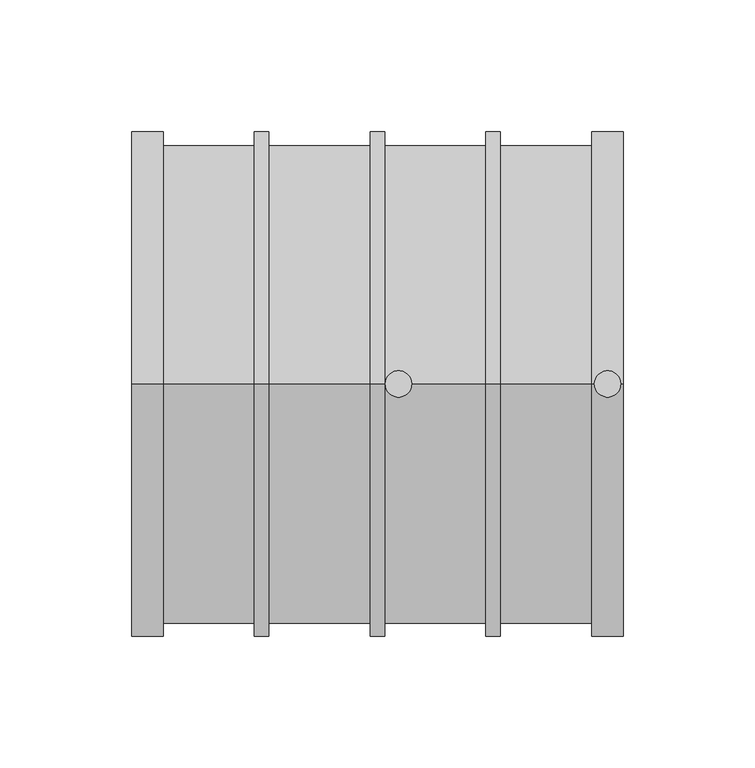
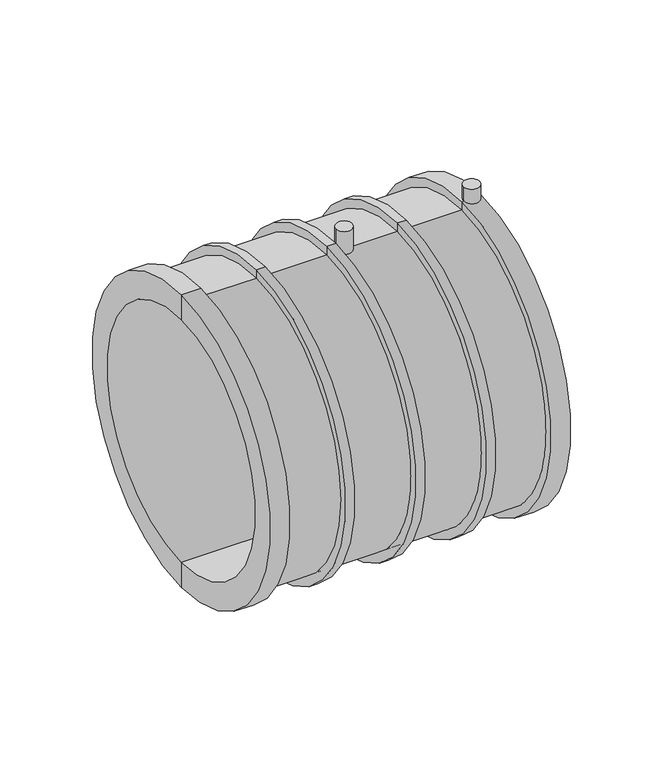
"""IFC4 building model written with IfcOpenShell, lengths in millimetres: pipe fitting geometry, Plumbing_Pipe-Fittings_Plasson_Wastewater-PE-to-PVC-Adaptor_4701V4 : Plumbing_Pipe-Fittings_Plasson_Wastewater-PE-to-PVC-Adaptor_4701V4."""

from ifc_helpers import new_model, si_unit, point, frame, frame_2d, origin, place, context, project, spatial, polyline, circle_curve, trimmed, segment, composite_curve, outline, extrude, source, transform, mapped, element, save
from ifc_brep_helpers import plane_surface, cylinder_surface, revolved_surface, advanced_brep


def pipe_fitting_9f1613c2(model_context):
    return source(origin(), model_context, "Body", "SolidModel", [
        advanced_brep(
        [(-16.5, 0.0, -80.0), (-16.5, 0.0, 80.0), (-93.5, 0.0, 80.0), (-93.5, 0.0, -80.0), (-16.5, 0.0, -77.0), (-16.5, 0.0, 77.0), (3.5, 0.0, -77.0), (3.5, 0.0, 77.0), (3.5, 0.0, -80.0), (3.5, 0.0, 80.0), (93.5, 0.0, -80.0), (93.5, 0.0, 80.0), (93.5, 0.0, -96.5), (93.5, 0.0, 96.5), (81.5, 0.0, -96.5), (81.5, 0.0, 96.5), (81.5, 0.0, -91.0), (81.5, 0.0, 91.0), (46.75, 0.0, -96.5), (46.75, 0.0, 96.5), (46.75, 0.0, 91.0), (46.75, 0.0, -91.0), (-81.5, 0.0, -91.0), (-81.5, 0.0, 91.0), (-46.75, 0.0, 91.0), (-46.75, 0.0, -91.0), (-81.5, 0.0, -96.5), (-81.5, 0.0, 96.5), (-93.5, 0.0, -96.5), (-93.5, 0.0, 96.5), (41.25, 0.0, -96.5), (41.25, 0.0, 96.5), (41.25, 0.0, -91.0), (41.25, 0.0, 91.0), (2.75, 0.0, -91.0), (2.75, 0.0, 91.0), (2.75, 0.0, -96.5), (2.75, 0.0, 96.5), (-2.75, 0.0, -96.5), (-2.75, 0.0, 96.5), (-2.75, 0.0, -91.0), (-2.75, 0.0, 91.0), (-41.25, 0.0, -91.0), (-41.25, 0.0, 91.0), (-41.25, 0.0, -96.5), (-41.25, 0.0, 96.5), (-46.75, 0.0, -96.5), (-46.75, 0.0, 96.5)],
        [
            (0, 1, circle_curve(frame((-16.5, 0.0, 0.0), z_axis=(1.0, 0.0, 0.0), x_axis=(0.0, 0.0, 1.0)), 80.0)),
            (1, 2),
            (2, 3, circle_curve(frame((-93.5, 0.0, 0.0), z_axis=(-1.0, 0.0, 0.0), x_axis=(0.0, 0.0, 1.0)), 80.0)),
            (3, 0),
            (1, 0, circle_curve(frame((-16.5, 0.0, 0.0), z_axis=(1.0, 0.0, 0.0), x_axis=(0.0, 0.0, 1.0)), 80.0)),
            (3, 2, circle_curve(frame((-93.5, 0.0, 0.0), z_axis=(-1.0, 0.0, 0.0), x_axis=(0.0, 0.0, 1.0)), 80.0)),
            (4, 5, circle_curve(frame((-16.5, 0.0, 0.0), z_axis=(1.0, 0.0, 0.0), x_axis=(0.0, 0.0, 1.0)), 77.0)),
            (5, 1),
            (0, 4),
            (5, 4, circle_curve(frame((-16.5, 0.0, 0.0), z_axis=(1.0, 0.0, 0.0), x_axis=(0.0, 0.0, 1.0)), 77.0)),
            (6, 7, circle_curve(frame((3.5, 0.0, 0.0), z_axis=(1.0, 0.0, 0.0), x_axis=(0.0, 0.0, 1.0)), 77.0)),
            (7, 5),
            (4, 6),
            (7, 6, circle_curve(frame((3.5, 0.0, 0.0), z_axis=(1.0, 0.0, 0.0), x_axis=(0.0, 0.0, 1.0)), 77.0)),
            (8, 9, circle_curve(frame((3.5, 0.0, 0.0), z_axis=(1.0, 0.0, 0.0), x_axis=(0.0, 0.0, 1.0)), 80.0)),
            (9, 7),
            (6, 8),
            (9, 8, circle_curve(frame((3.5, 0.0, 0.0), z_axis=(1.0, 0.0, 0.0), x_axis=(0.0, 0.0, 1.0)), 80.0)),
            (10, 11, circle_curve(frame((93.5, 0.0, 0.0), z_axis=(1.0, 0.0, 0.0), x_axis=(0.0, 0.0, 1.0)), 80.0)),
            (11, 9),
            (8, 10),
            (11, 10, circle_curve(frame((93.5, 0.0, 0.0), z_axis=(1.0, 0.0, 0.0), x_axis=(0.0, 0.0, 1.0)), 80.0)),
            (12, 13, circle_curve(frame((93.5, 0.0, 0.0), z_axis=(1.0, 0.0, 0.0), x_axis=(0.0, 0.0, 1.0)), 96.5)),
            (13, 11),
            (10, 12),
            (13, 12, circle_curve(frame((93.5, 0.0, 0.0), z_axis=(1.0, 0.0, 0.0), x_axis=(0.0, 0.0, 1.0)), 96.5)),
            (14, 15, circle_curve(frame((81.5, 0.0, 0.0), z_axis=(1.0, 0.0, 0.0), x_axis=(0.0, 0.0, 1.0)), 96.5)),
            (15, 13),
            (12, 14),
            (15, 14, circle_curve(frame((81.5, 0.0, 0.0), z_axis=(1.0, 0.0, 0.0), x_axis=(0.0, 0.0, 1.0)), 96.5)),
            (16, 17, circle_curve(frame((81.5, 0.0, 0.0), z_axis=(1.0, 0.0, 0.0), x_axis=(0.0, 0.0, 1.0)), 91.0)),
            (17, 15),
            (14, 16),
            (17, 16, circle_curve(frame((81.5, 0.0, 0.0), z_axis=(1.0, 0.0, 0.0), x_axis=(0.0, 0.0, 1.0)), 91.0)),
            (18, 19, circle_curve(frame((46.75, 0.0, 0.0), z_axis=(1.0, 0.0, 0.0), x_axis=(0.0, 0.0, 1.0)), 96.5)),
            (19, 20),
            (20, 21, circle_curve(frame((46.75, 0.0, 0.0), z_axis=(-1.0, 0.0, 0.0), x_axis=(0.0, 0.0, 1.0)), 91.0)),
            (21, 18),
            (19, 18, circle_curve(frame((46.75, 0.0, 0.0), z_axis=(1.0, 0.0, 0.0), x_axis=(0.0, 0.0, 1.0)), 96.5)),
            (21, 20, circle_curve(frame((46.75, 0.0, 0.0), z_axis=(-1.0, 0.0, 0.0), x_axis=(0.0, 0.0, 1.0)), 91.0)),
            (22, 23, circle_curve(frame((-81.5, 0.0, 0.0), z_axis=(1.0, 0.0, 0.0), x_axis=(0.0, 0.0, 1.0)), 91.0)),
            (23, 24),
            (24, 25, circle_curve(frame((-46.75, 0.0, 0.0), z_axis=(-1.0, 0.0, 0.0), x_axis=(0.0, 0.0, 1.0)), 91.0)),
            (25, 22),
            (23, 22, circle_curve(frame((-81.5, 0.0, 0.0), z_axis=(1.0, 0.0, 0.0), x_axis=(0.0, 0.0, 1.0)), 91.0)),
            (25, 24, circle_curve(frame((-46.75, 0.0, 0.0), z_axis=(-1.0, 0.0, 0.0), x_axis=(0.0, 0.0, 1.0)), 91.0)),
            (26, 27, circle_curve(frame((-81.5, 0.0, 0.0), z_axis=(1.0, 0.0, 0.0), x_axis=(0.0, 0.0, 1.0)), 96.5)),
            (27, 23),
            (22, 26),
            (27, 26, circle_curve(frame((-81.5, 0.0, 0.0), z_axis=(1.0, 0.0, 0.0), x_axis=(0.0, 0.0, 1.0)), 96.5)),
            (28, 29, circle_curve(frame((-93.5, 0.0, 0.0), z_axis=(1.0, 0.0, 0.0), x_axis=(0.0, 0.0, 1.0)), 96.5)),
            (29, 27),
            (26, 28),
            (29, 28, circle_curve(frame((-93.5, 0.0, 0.0), z_axis=(1.0, 0.0, 0.0), x_axis=(0.0, 0.0, 1.0)), 96.5)),
            (2, 29),
            (28, 3),
            (20, 17),
            (16, 21),
            (30, 31, circle_curve(frame((41.25, 0.0, 0.0), z_axis=(1.0, 0.0, 0.0), x_axis=(0.0, 0.0, 1.0)), 96.5)),
            (31, 19),
            (18, 30),
            (31, 30, circle_curve(frame((41.25, 0.0, 0.0), z_axis=(1.0, 0.0, 0.0), x_axis=(0.0, 0.0, 1.0)), 96.5)),
            (32, 33, circle_curve(frame((41.25, 0.0, 0.0), z_axis=(1.0, 0.0, 0.0), x_axis=(0.0, 0.0, 1.0)), 91.0)),
            (33, 31),
            (30, 32),
            (33, 32, circle_curve(frame((41.25, 0.0, 0.0), z_axis=(1.0, 0.0, 0.0), x_axis=(0.0, 0.0, 1.0)), 91.0)),
            (34, 35, circle_curve(frame((2.75, 0.0, 0.0), z_axis=(1.0, 0.0, 0.0), x_axis=(0.0, 0.0, 1.0)), 91.0)),
            (35, 33),
            (32, 34),
            (35, 34, circle_curve(frame((2.75, 0.0, 0.0), z_axis=(1.0, 0.0, 0.0), x_axis=(0.0, 0.0, 1.0)), 91.0)),
            (36, 37, circle_curve(frame((2.75, 0.0, 0.0), z_axis=(1.0, 0.0, 0.0), x_axis=(0.0, 0.0, 1.0)), 96.5)),
            (37, 35),
            (34, 36),
            (37, 36, circle_curve(frame((2.75, 0.0, 0.0), z_axis=(1.0, 0.0, 0.0), x_axis=(0.0, 0.0, 1.0)), 96.5)),
            (38, 39, circle_curve(frame((-2.75, 0.0, 0.0), z_axis=(1.0, 0.0, 0.0), x_axis=(0.0, 0.0, 1.0)), 96.5)),
            (39, 37),
            (36, 38),
            (39, 38, circle_curve(frame((-2.75, 0.0, 0.0), z_axis=(1.0, 0.0, 0.0), x_axis=(0.0, 0.0, 1.0)), 96.5)),
            (40, 41, circle_curve(frame((-2.75, 0.0, 0.0), z_axis=(1.0, 0.0, 0.0), x_axis=(0.0, 0.0, 1.0)), 91.0)),
            (41, 39),
            (38, 40),
            (41, 40, circle_curve(frame((-2.75, 0.0, 0.0), z_axis=(1.0, 0.0, 0.0), x_axis=(0.0, 0.0, 1.0)), 91.0)),
            (42, 43, circle_curve(frame((-41.25, 0.0, 0.0), z_axis=(1.0, 0.0, 0.0), x_axis=(0.0, 0.0, 1.0)), 91.0)),
            (43, 41),
            (40, 42),
            (43, 42, circle_curve(frame((-41.25, 0.0, 0.0), z_axis=(1.0, 0.0, 0.0), x_axis=(0.0, 0.0, 1.0)), 91.0)),
            (44, 45, circle_curve(frame((-41.25, 0.0, 0.0), z_axis=(1.0, 0.0, 0.0), x_axis=(0.0, 0.0, 1.0)), 96.5)),
            (45, 43),
            (42, 44),
            (45, 44, circle_curve(frame((-41.25, 0.0, 0.0), z_axis=(1.0, 0.0, 0.0), x_axis=(0.0, 0.0, 1.0)), 96.5)),
            (46, 47, circle_curve(frame((-46.75, 0.0, 0.0), z_axis=(1.0, 0.0, 0.0), x_axis=(0.0, 0.0, 1.0)), 96.5)),
            (47, 45),
            (44, 46),
            (47, 46, circle_curve(frame((-46.75, 0.0, 0.0), z_axis=(1.0, 0.0, 0.0), x_axis=(0.0, 0.0, 1.0)), 96.5)),
            (24, 47),
            (46, 25),
        ],
        [
            revolved_surface(polyline([(-93.5, 0.0, 80.0), (-16.5, 0.0, 80.0)]), (-93.5, 0.0, 0.0), (-1.0, 0.0, 0.0)),
            plane_surface(frame((-16.5, 0.0, 0.0), z_axis=(-1.0, 0.0, 0.0), x_axis=(0.0, 0.0, 1.0))),
            revolved_surface(polyline([(-16.5, 0.0, 77.0), (3.5, 0.0, 77.0)]), (-93.5, 0.0, 0.0), (-1.0, 0.0, 0.0)),
            plane_surface(frame((3.5, 0.0, 0.0), z_axis=(1.0, 0.0, 0.0), x_axis=(0.0, 0.0, 1.0))),
            revolved_surface(polyline([(3.5, 0.0, 80.0), (93.5, 0.0, 80.0)]), (-93.5, 0.0, 0.0), (-1.0, 0.0, 0.0)),
            plane_surface(frame((93.5, 0.0, 0.0), z_axis=(1.0, 0.0, 0.0), x_axis=(0.0, 0.0, 1.0))),
            cylinder_surface(frame((-93.5, 0.0, 0.0), z_axis=(-1.0, 0.0, 0.0), x_axis=(0.0, 0.0, 1.0)), 96.5),
            plane_surface(frame((81.5, 0.0, 0.0), z_axis=(-1.0, 0.0, 0.0), x_axis=(0.0, 0.0, 1.0))),
            plane_surface(frame((46.75, 0.0, 0.0), z_axis=(1.0, 0.0, 0.0), x_axis=(0.0, 0.0, 1.0))),
            cylinder_surface(frame((-93.5, 0.0, 0.0), z_axis=(-1.0, 0.0, 0.0), x_axis=(0.0, 0.0, 1.0)), 91.0),
            plane_surface(frame((-81.5, 0.0, 0.0), z_axis=(1.0, 0.0, 0.0), x_axis=(0.0, 0.0, 1.0))),
            plane_surface(frame((-93.5, 0.0, 0.0), z_axis=(-1.0, 0.0, 0.0), x_axis=(0.0, 0.0, 1.0))),
            plane_surface(frame((41.25, 0.0, 0.0), z_axis=(-1.0, 0.0, 0.0), x_axis=(0.0, 0.0, 1.0))),
            plane_surface(frame((2.75, 0.0, 0.0), z_axis=(1.0, 0.0, 0.0), x_axis=(0.0, 0.0, 1.0))),
            plane_surface(frame((-2.75, 0.0, 0.0), z_axis=(-1.0, 0.0, 0.0), x_axis=(0.0, 0.0, 1.0))),
            plane_surface(frame((-41.25, 0.0, 0.0), z_axis=(1.0, 0.0, 0.0), x_axis=(0.0, 0.0, 1.0))),
            plane_surface(frame((-46.75, 0.0, 0.0), z_axis=(-1.0, 0.0, 0.0), x_axis=(0.0, 0.0, 1.0))),
        ],
        [
            (0, [[1, 2, 3, 4]]),
            (0, [[5, -4, 6, -2]]),
            (1, [[7, 8, -1, 9]]),
            (1, [[10, -9, -5, -8]]),
            (2, [[11, 12, -7, 13]]),
            (2, [[14, -13, -10, -12]]),
            (3, [[15, 16, -11, 17]]),
            (3, [[18, -17, -14, -16]]),
            (4, [[19, 20, -15, 21]]),
            (4, [[22, -21, -18, -20]]),
            (5, [[23, 24, -19, 25]]),
            (5, [[26, -25, -22, -24]]),
            (6, [[27, 28, -23, 29]]),
            (6, [[30, -29, -26, -28]]),
            (7, [[31, 32, -27, 33]]),
            (7, [[34, -33, -30, -32]]),
            (8, [[35, 36, 37, 38]]),
            (8, [[39, -38, 40, -36]]),
            (9, [[41, 42, 43, 44]]),
            (9, [[45, -44, 46, -42]]),
            (10, [[47, 48, -41, 49]]),
            (10, [[50, -49, -45, -48]]),
            (6, [[51, 52, -47, 53]]),
            (6, [[54, -53, -50, -52]]),
            (11, [[-3, 55, -51, 56]]),
            (11, [[-6, -56, -54, -55]]),
            (9, [[-37, 57, -31, 58]]),
            (9, [[-40, -58, -34, -57]]),
            (6, [[59, 60, -35, 61]]),
            (6, [[62, -61, -39, -60]]),
            (12, [[63, 64, -59, 65]]),
            (12, [[66, -65, -62, -64]]),
            (9, [[67, 68, -63, 69]]),
            (9, [[70, -69, -66, -68]]),
            (13, [[71, 72, -67, 73]]),
            (13, [[74, -73, -70, -72]]),
            (6, [[75, 76, -71, 77]]),
            (6, [[78, -77, -74, -76]]),
            (14, [[79, 80, -75, 81]]),
            (14, [[82, -81, -78, -80]]),
            (9, [[83, 84, -79, 85]]),
            (9, [[86, -85, -82, -84]]),
            (15, [[87, 88, -83, 89]]),
            (15, [[90, -89, -86, -88]]),
            (6, [[91, 92, -87, 93]]),
            (6, [[94, -93, -90, -92]]),
            (16, [[-43, 95, -91, 96]]),
            (16, [[-46, -96, -94, -95]]),
        ],
    ),
        extrude(outline(composite_curve([segment(trimmed(circle_curve(frame_2d((8.0, 0.0)), 5.0), [point((3.0, 0.0))], [point((13.0, 0.0))], False, "CARTESIAN"), True, "CONTINUOUS"), segment(trimmed(circle_curve(frame_2d((8.0, 0.0)), 5.0), [point((13.0, 0.0))], [point((3.0, 0.0))], False, "CARTESIAN"), True, "CONTINUOUS")], self_intersect=False)), frame((0.0, 0.0, 88.25), z_axis=(0.0, 0.0, 1.0), x_axis=(1.0, 0.0, 0.0)), (0.0, 0.0, 1.0), 17.75),
        extrude(outline(composite_curve([segment(trimmed(circle_curve(frame_2d((87.5, 0.0)), 5.0), [point((82.5, 0.0))], [point((92.5, 0.0))], False, "CARTESIAN"), True, "CONTINUOUS"), segment(trimmed(circle_curve(frame_2d((87.5, 0.0)), 5.0), [point((92.5, 0.0))], [point((82.5, 0.0))], False, "CARTESIAN"), True, "CONTINUOUS")], self_intersect=False)), frame((0.0, 0.0, 88.25), z_axis=(0.0, 0.0, 1.0), x_axis=(1.0, 0.0, 0.0)), (0.0, 0.0, 1.0), 17.75),
    ])


if __name__ == "__main__":
    model = new_model("IFC4")
    model_context = context("Model", 3, world=origin())
    ifc_project = project(units=[si_unit("LENGTHUNIT", "METRE", prefix="MILLI")], contexts=[model_context])
    site = spatial("IfcSite", under=ifc_project)
    building = spatial("IfcBuilding", under=site)
    placement = place(None, origin())
    pipe_fitting_shape = pipe_fitting_9f1613c2(model_context)
    element("IfcPipeFitting", 1, ObjectType="Plumbing_Pipe-Fittings_Plasson_Wastewater-PE-to-PVC-Adaptor_4701V4 : Plumbing_Pipe-Fittings_Plasson_Wastewater-PE-to-PVC-Adaptor_4701V4", at=placement, inside=building, context=model_context, shape_type="MappedRepresentation", body=[
        mapped(pipe_fitting_shape, transform((0.0, 0.0, 0.0), x_axis=(1.0, 0.0, 0.0), y_axis=(0.0, 1.0, 0.0), z_axis=(0.0, 0.0, 1.0))),
    ])
    save(model, "model.ifc")
